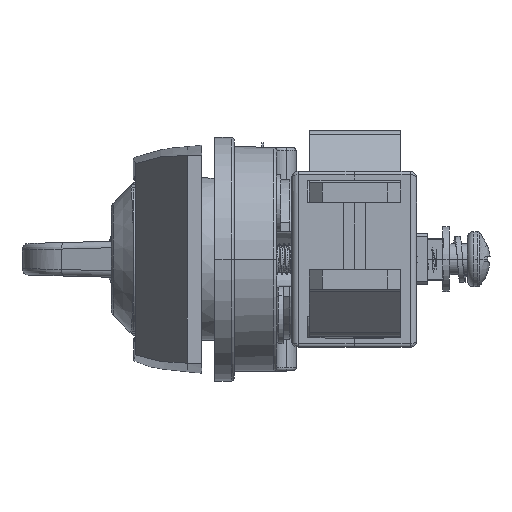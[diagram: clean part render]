
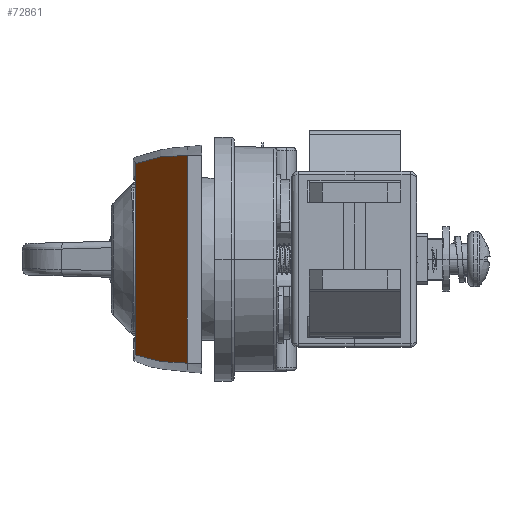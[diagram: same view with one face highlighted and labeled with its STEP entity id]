
A CAD part, left-side view. The second image highlights one B-rep face of the part: STEP entity #72861.
In plain terms, the highlighted planar face has unit normal (-0.5, 0.866, 0).
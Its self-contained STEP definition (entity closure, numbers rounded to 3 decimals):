
#66134=CARTESIAN_POINT('',(-29.961,2.251,
15.962));
#66135=CARTESIAN_POINT('',(-29.146,2.721,
15.979));
#66136=CARTESIAN_POINT('',(-27.607,3.609,
15.98));
#66137=CARTESIAN_POINT('',(-25.541,4.803,
15.906));
#66138=CARTESIAN_POINT('',(-23.81,5.802,
15.791));
#66139=CARTESIAN_POINT('',(-22.054,6.816,
15.628));
#66140=CARTESIAN_POINT('',(-19.886,8.068,
15.349));
#66141=CARTESIAN_POINT('',(-18.013,9.148,
15.033));
#66142=CARTESIAN_POINT('',(-16.833,9.83,
14.794));
#66143=CARTESIAN_POINT('',(-16.269,10.155,
14.67));
#66145=DIRECTION('',(0.,0.,1.));
#66146=VECTOR('',#66145,31.924);
#66147=CARTESIAN_POINT('',(-29.961,2.251,
-15.962));
#66148=LINE('',#66147,#66146);
#66149=CARTESIAN_POINT('',(-16.269,10.155,
-14.671));
#66150=CARTESIAN_POINT('',(-16.833,9.83,
-14.794));
#66151=CARTESIAN_POINT('',(-18.014,9.148,
-15.033));
#66152=CARTESIAN_POINT('',(-19.889,8.066,
-15.349));
#66153=CARTESIAN_POINT('',(-22.051,6.817,
-15.628));
#66154=CARTESIAN_POINT('',(-23.826,5.792,
-15.792));
#66155=CARTESIAN_POINT('',(-25.547,4.799,
-15.907));
#66156=CARTESIAN_POINT('',(-27.612,3.607,
-15.98));
#66157=CARTESIAN_POINT('',(-29.147,2.72,
-15.979));
#66158=CARTESIAN_POINT('',(-29.961,2.251,
-15.962));
#66160=DIRECTION('',(0.,0.,-1.));
#66161=VECTOR('',#66160,29.341);
#66162=CARTESIAN_POINT('',(-16.269,10.155,
14.67));
#66163=LINE('',#66162,#66161);
#66174=CARTESIAN_POINT('',(-16.269,10.155,
-14.671));
#66176=CARTESIAN_POINT('',(-16.269,10.155,
14.67));
#71838=VERTEX_POINT('',#66176);
#71993=CARTESIAN_POINT('',(-29.961,2.251,
-15.962));
#71994=CARTESIAN_POINT('',(-29.961,2.251,
15.962));
#71995=VERTEX_POINT('',#71993);
#71996=VERTEX_POINT('',#71994);
#72157=VERTEX_POINT('',#66174);
#72847=CARTESIAN_POINT('',(-29.961,2.251,-17.5));
#72848=DIRECTION('',(0.5,-0.866,0.));
#72849=DIRECTION('',(0.866,0.5,0.));
#72850=AXIS2_PLACEMENT_3D('',#72847,#72848,#72849);
#72851=PLANE('',#72850);
#72853=ORIENTED_EDGE('',*,*,#72852,.F.);
#72854=ORIENTED_EDGE('',*,*,#72841,.F.);
#72856=ORIENTED_EDGE('',*,*,#72855,.F.);
#72858=ORIENTED_EDGE('',*,*,#72857,.F.);
#72859=EDGE_LOOP('',(#72853,#72854,#72856,#72858));
#72860=FACE_OUTER_BOUND('',#72859,.F.);
#72861=ADVANCED_FACE('',(#72860),#72851,.F.);
#66144=B_SPLINE_CURVE_WITH_KNOTS('',3,(#66134,#66135,#66136,#66137,#66138,
#66139,#66140,#66141,#66142,#66143),.UNSPECIFIED.,.F.,.F.,(4,1,1,1,1,1,1,4),(
0.,0.143,0.286,0.429,0.571,
0.714,0.857,1.),.UNSPECIFIED.);
#66159=B_SPLINE_CURVE_WITH_KNOTS('',3,(#66149,#66150,#66151,#66152,#66153,
#66154,#66155,#66156,#66157,#66158),.UNSPECIFIED.,.F.,.F.,(4,1,1,1,1,1,1,4),(
0.,0.143,0.286,0.429,0.571,
0.714,0.857,1.),.UNSPECIFIED.);
#72841=EDGE_CURVE('',#71995,#71996,#66148,.T.);
#72852=EDGE_CURVE('',#71996,#71838,#66144,.T.);
#72855=EDGE_CURVE('',#72157,#71995,#66159,.T.);
#72857=EDGE_CURVE('',#71838,#72157,#66163,.T.);
